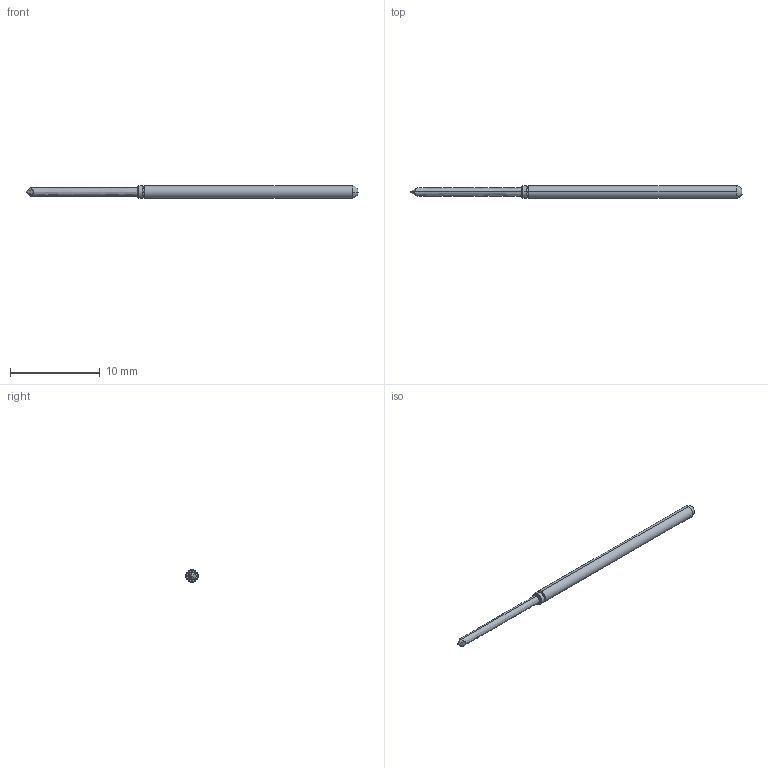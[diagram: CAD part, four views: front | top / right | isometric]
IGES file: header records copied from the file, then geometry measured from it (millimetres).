
Start section: SolidWorks IGES file using analytic representation for surfaces
Global section: file name: Z:\probe solid model mockups\Solidworks models\LTP-25\LTP-25I8.IGS; native system: SolidWorks 2006 by SolidWorks Corporation; preprocessor: SolidWorks 2006 by SolidWorks Corporation; author: tsakatani; date: 071214.143119; units: inch
Bounding box: 37.08 x 1.37 x 1.37 mm (x, y, z)
Surface area: 142.2 mm2 (no closed solid volume)
Topology: 0 solids, 0 shells, 24 faces, 170 edges, 170 vertices
Faces by surface type: bspline 12, revolution 12
